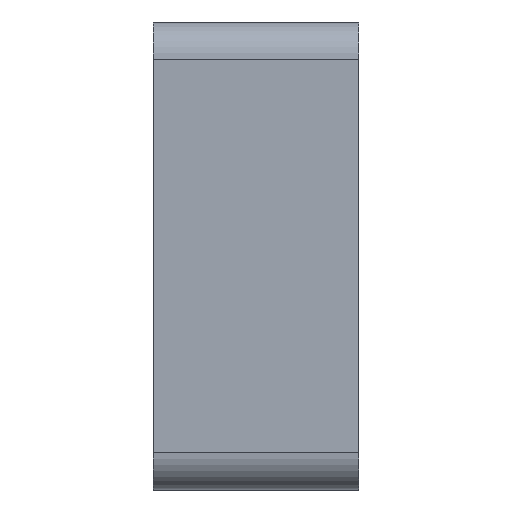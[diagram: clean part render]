
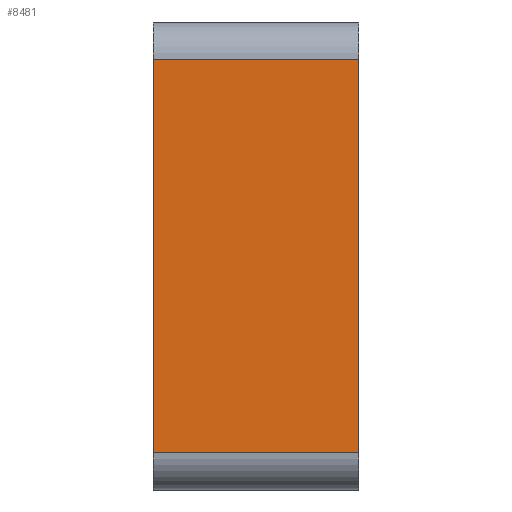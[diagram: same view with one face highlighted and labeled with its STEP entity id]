
A CAD part, left-side view. The second image highlights one B-rep face of the part: STEP entity #8481.
In plain terms, the highlighted planar face has unit normal (-1, 0, 0).
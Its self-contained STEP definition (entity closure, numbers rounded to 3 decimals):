
#468 = DIRECTION ( 'NONE',  ( 1., 0., 0. ) ) ;
#676 = EDGE_LOOP ( 'NONE', ( #3512, #10034, #6718, #7047 ) ) ;
#708 = LINE ( 'NONE', #10150, #5088 ) ;
#795 = CARTESIAN_POINT ( 'NONE',  ( -83., -5.5, -12.5 ) ) ;
#984 = AXIS2_PLACEMENT_3D ( 'NONE', #5693, #468, #6537 ) ;
#1571 = CARTESIAN_POINT ( 'NONE',  ( -83., 5.5, 10.5 ) ) ;
#1663 = DIRECTION ( 'NONE',  ( 0., 0., 1. ) ) ;
#2183 = PLANE ( 'NONE',  #984 ) ;
#2475 = CARTESIAN_POINT ( 'NONE',  ( -83., 5.5, -10.5 ) ) ;
#2541 = VECTOR ( 'NONE', #1663, 1000. ) ;
#2575 = VERTEX_POINT ( 'NONE', #2475 ) ;
#2613 = VECTOR ( 'NONE', #9789, 1000. ) ;
#2808 = LINE ( 'NONE', #795, #2541 ) ;
#2875 = LINE ( 'NONE', #9832, #2613 ) ;
#3512 = ORIENTED_EDGE ( 'NONE', *, *, #8078, .F. ) ;
#3709 = FACE_OUTER_BOUND ( 'NONE', #676, .T. ) ;
#4917 = VERTEX_POINT ( 'NONE', #9665 ) ;
#5088 = VECTOR ( 'NONE', #11014, 1000. ) ;
#5096 = EDGE_CURVE ( 'NONE', #8347, #8492, #8798, .T. ) ;
#5693 = CARTESIAN_POINT ( 'NONE',  ( -83., 5.5, -12.5 ) ) ;
#6490 = VECTOR ( 'NONE', #9431, 1000. ) ;
#6537 = DIRECTION ( 'NONE',  ( 0., 0., -1. ) ) ;
#6718 = ORIENTED_EDGE ( 'NONE', *, *, #7282, .T. ) ;
#7047 = ORIENTED_EDGE ( 'NONE', *, *, #5096, .T. ) ;
#7282 = EDGE_CURVE ( 'NONE', #4917, #8347, #2808, .T. ) ;
#8078 = EDGE_CURVE ( 'NONE', #2575, #8492, #2875, .T. ) ;
#8347 = VERTEX_POINT ( 'NONE', #10682 ) ;
#8481 = ADVANCED_FACE ( 'NONE', ( #3709 ), #2183, .F. ) ;
#8492 = VERTEX_POINT ( 'NONE', #10838 ) ;
#8798 = LINE ( 'NONE', #1571, #6490 ) ;
#9431 = DIRECTION ( 'NONE',  ( 0., 1., 0. ) ) ;
#9665 = CARTESIAN_POINT ( 'NONE',  ( -83., -5.5, -10.5 ) ) ;
#9789 = DIRECTION ( 'NONE',  ( 0., 0., 1. ) ) ;
#9832 = CARTESIAN_POINT ( 'NONE',  ( -83., 5.5, -12.5 ) ) ;
#10034 = ORIENTED_EDGE ( 'NONE', *, *, #10833, .T. ) ;
#10150 = CARTESIAN_POINT ( 'NONE',  ( -83., 5.5, -10.5 ) ) ;
#10682 = CARTESIAN_POINT ( 'NONE',  ( -83., -5.5, 10.5 ) ) ;
#10833 = EDGE_CURVE ( 'NONE', #2575, #4917, #708, .T. ) ;
#10838 = CARTESIAN_POINT ( 'NONE',  ( -83., 5.5, 10.5 ) ) ;
#11014 = DIRECTION ( 'NONE',  ( 0., -1., 0. ) ) ;
